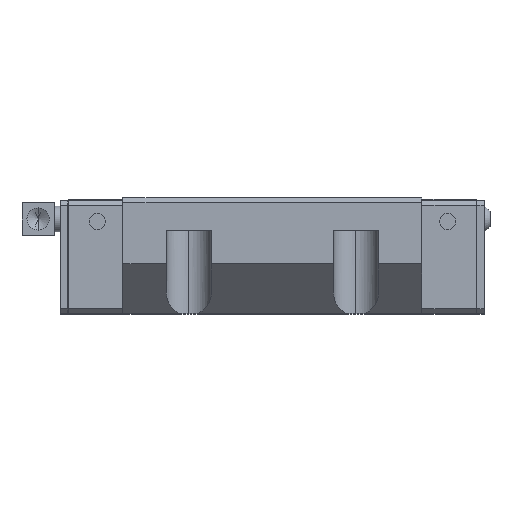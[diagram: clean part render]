
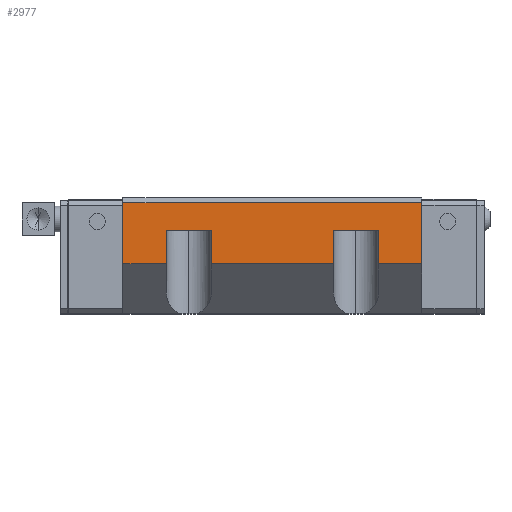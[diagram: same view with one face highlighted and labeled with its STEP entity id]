
A CAD part, top view. The second image highlights one B-rep face of the part: STEP entity #2977.
In plain terms, the highlighted planar face has unit normal (0, 0, 1).
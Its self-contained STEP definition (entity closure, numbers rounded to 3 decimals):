
#124 = VERTEX_POINT ( 'NONE', #4370 ) ;
#282 = DIRECTION ( 'NONE',  ( 0., 1., 0. ) ) ;
#283 = PLANE ( 'NONE',  #5084 ) ;
#381 = DIRECTION ( 'NONE',  ( 0., -1., 0. ) ) ;
#454 = CARTESIAN_POINT ( 'NONE',  ( 46.5, 12.5, 45. ) ) ;
#571 = CARTESIAN_POINT ( 'NONE',  ( -33., 4., 45. ) ) ;
#576 = EDGE_CURVE ( 'NONE', #5110, #124, #1073, .T. ) ;
#714 = CARTESIAN_POINT ( 'NONE',  ( 19., -6.5, 45. ) ) ;
#742 = ORIENTED_EDGE ( 'NONE', *, *, #7680, .F. ) ;
#785 = VECTOR ( 'NONE', #4417, 1000. ) ;
#982 = EDGE_LOOP ( 'NONE', ( #1804, #3953, #1015, #8207, #3205, #5369, #5470, #6253, #4119, #742, #5195, #4826 ) ) ;
#1015 = ORIENTED_EDGE ( 'NONE', *, *, #5197, .F. ) ;
#1073 = LINE ( 'NONE', #6713, #1489 ) ;
#1080 = VECTOR ( 'NONE', #4124, 1000. ) ;
#1133 = EDGE_CURVE ( 'NONE', #6930, #4163, #4883, .T. ) ;
#1194 = EDGE_CURVE ( 'NONE', #4742, #7167, #6375, .T. ) ;
#1286 = EDGE_CURVE ( 'NONE', #2222, #4006, #3687, .T. ) ;
#1431 = LINE ( 'NONE', #7729, #7018 ) ;
#1489 = VECTOR ( 'NONE', #6077, 1000. ) ;
#1507 = DIRECTION ( 'NONE',  ( -1., 0., 0. ) ) ;
#1519 = CARTESIAN_POINT ( 'NONE',  ( 33., 4., 45. ) ) ;
#1791 = CARTESIAN_POINT ( 'NONE',  ( 33., 4., 45. ) ) ;
#1804 = ORIENTED_EDGE ( 'NONE', *, *, #6743, .F. ) ;
#1817 = CARTESIAN_POINT ( 'NONE',  ( 33., 4., 45. ) ) ;
#1864 = LINE ( 'NONE', #1817, #5734 ) ;
#2092 = CARTESIAN_POINT ( 'NONE',  ( 19., -6.5, 45. ) ) ;
#2114 = VECTOR ( 'NONE', #4101, 1000. ) ;
#2152 = CARTESIAN_POINT ( 'NONE',  ( -19., 4., 45. ) ) ;
#2181 = CARTESIAN_POINT ( 'NONE',  ( 46.5, -6.5, 45. ) ) ;
#2222 = VERTEX_POINT ( 'NONE', #4086 ) ;
#2309 = DIRECTION ( 'NONE',  ( -1., 0., 0. ) ) ;
#2311 = EDGE_CURVE ( 'NONE', #8748, #3534, #4438, .T. ) ;
#2350 = CARTESIAN_POINT ( 'NONE',  ( 46.5, -6.5, 45. ) ) ;
#2515 = CARTESIAN_POINT ( 'NONE',  ( -33., 4., 45. ) ) ;
#2547 = CARTESIAN_POINT ( 'NONE',  ( -33., -6.5, 45. ) ) ;
#2798 = VERTEX_POINT ( 'NONE', #1519 ) ;
#2927 = EDGE_CURVE ( 'NONE', #2798, #2222, #7929, .T. ) ;
#2945 = CARTESIAN_POINT ( 'NONE',  ( 33., -6.5, 45. ) ) ;
#2977 = ADVANCED_FACE ( 'NONE', ( #7970 ), #283, .T. ) ;
#3205 = ORIENTED_EDGE ( 'NONE', *, *, #2927, .F. ) ;
#3534 = VERTEX_POINT ( 'NONE', #2945 ) ;
#3601 = CARTESIAN_POINT ( 'NONE',  ( -19., 4., 45. ) ) ;
#3687 = LINE ( 'NONE', #7870, #785 ) ;
#3953 = ORIENTED_EDGE ( 'NONE', *, *, #1194, .T. ) ;
#4006 = VERTEX_POINT ( 'NONE', #2092 ) ;
#4086 = CARTESIAN_POINT ( 'NONE',  ( 19., 4., 45. ) ) ;
#4101 = DIRECTION ( 'NONE',  ( -1., 0., 0. ) ) ;
#4119 = ORIENTED_EDGE ( 'NONE', *, *, #1133, .T. ) ;
#4124 = DIRECTION ( 'NONE',  ( -1., 0., 0. ) ) ;
#4163 = VERTEX_POINT ( 'NONE', #8671 ) ;
#4359 = CARTESIAN_POINT ( 'NONE',  ( -19., -6.5, 45. ) ) ;
#4370 = CARTESIAN_POINT ( 'NONE',  ( -46.5, -6.5, 45. ) ) ;
#4373 = DIRECTION ( 'NONE',  ( 0., -1., 0. ) ) ;
#4417 = DIRECTION ( 'NONE',  ( 0., -1., 0. ) ) ;
#4438 = LINE ( 'NONE', #2350, #8069 ) ;
#4742 = VERTEX_POINT ( 'NONE', #2152 ) ;
#4826 = ORIENTED_EDGE ( 'NONE', *, *, #7734, .F. ) ;
#4883 = LINE ( 'NONE', #5479, #2114 ) ;
#5084 = AXIS2_PLACEMENT_3D ( 'NONE', #5935, #6561, #381 ) ;
#5100 = DIRECTION ( 'NONE',  ( -1., 0., 0. ) ) ;
#5110 = VERTEX_POINT ( 'NONE', #2547 ) ;
#5195 = ORIENTED_EDGE ( 'NONE', *, *, #576, .F. ) ;
#5197 = EDGE_CURVE ( 'NONE', #4006, #7167, #7804, .T. ) ;
#5369 = ORIENTED_EDGE ( 'NONE', *, *, #5370, .T. ) ;
#5370 = EDGE_CURVE ( 'NONE', #2798, #3534, #1864, .T. ) ;
#5470 = ORIENTED_EDGE ( 'NONE', *, *, #2311, .F. ) ;
#5479 = CARTESIAN_POINT ( 'NONE',  ( 46.5, 12.5, 45. ) ) ;
#5510 = VERTEX_POINT ( 'NONE', #2515 ) ;
#5568 = EDGE_CURVE ( 'NONE', #8748, #6930, #6518, .T. ) ;
#5734 = VECTOR ( 'NONE', #7398, 1000. ) ;
#5935 = CARTESIAN_POINT ( 'NONE',  ( -46.5, 12.5, 45. ) ) ;
#6077 = DIRECTION ( 'NONE',  ( -1., 0., 0. ) ) ;
#6249 = VECTOR ( 'NONE', #5100, 1000. ) ;
#6253 = ORIENTED_EDGE ( 'NONE', *, *, #5568, .T. ) ;
#6375 = LINE ( 'NONE', #3601, #8196 ) ;
#6518 = LINE ( 'NONE', #7249, #7024 ) ;
#6561 = DIRECTION ( 'NONE',  ( 0., 0., 1. ) ) ;
#6673 = DIRECTION ( 'NONE',  ( 0., -1., 0. ) ) ;
#6713 = CARTESIAN_POINT ( 'NONE',  ( -33., -6.5, 45. ) ) ;
#6743 = EDGE_CURVE ( 'NONE', #4742, #5510, #1431, .T. ) ;
#6913 = VECTOR ( 'NONE', #7127, 1000. ) ;
#6930 = VERTEX_POINT ( 'NONE', #454 ) ;
#7018 = VECTOR ( 'NONE', #1507, 1000. ) ;
#7024 = VECTOR ( 'NONE', #282, 1000. ) ;
#7127 = DIRECTION ( 'NONE',  ( 0., 1., 0. ) ) ;
#7167 = VERTEX_POINT ( 'NONE', #4359 ) ;
#7249 = CARTESIAN_POINT ( 'NONE',  ( 46.5, -6.5, 45. ) ) ;
#7264 = LINE ( 'NONE', #7945, #6913 ) ;
#7397 = LINE ( 'NONE', #571, #7488 ) ;
#7398 = DIRECTION ( 'NONE',  ( 0., -1., 0. ) ) ;
#7488 = VECTOR ( 'NONE', #6673, 1000. ) ;
#7680 = EDGE_CURVE ( 'NONE', #124, #4163, #7264, .T. ) ;
#7729 = CARTESIAN_POINT ( 'NONE',  ( -19., 4., 45. ) ) ;
#7734 = EDGE_CURVE ( 'NONE', #5510, #5110, #7397, .T. ) ;
#7804 = LINE ( 'NONE', #714, #1080 ) ;
#7870 = CARTESIAN_POINT ( 'NONE',  ( 19., 4., 45. ) ) ;
#7929 = LINE ( 'NONE', #1791, #6249 ) ;
#7945 = CARTESIAN_POINT ( 'NONE',  ( -46.5, -6.5, 45. ) ) ;
#7970 = FACE_OUTER_BOUND ( 'NONE', #982, .T. ) ;
#8069 = VECTOR ( 'NONE', #2309, 1000. ) ;
#8196 = VECTOR ( 'NONE', #4373, 1000. ) ;
#8207 = ORIENTED_EDGE ( 'NONE', *, *, #1286, .F. ) ;
#8671 = CARTESIAN_POINT ( 'NONE',  ( -46.5, 12.5, 45. ) ) ;
#8748 = VERTEX_POINT ( 'NONE', #2181 ) ;
